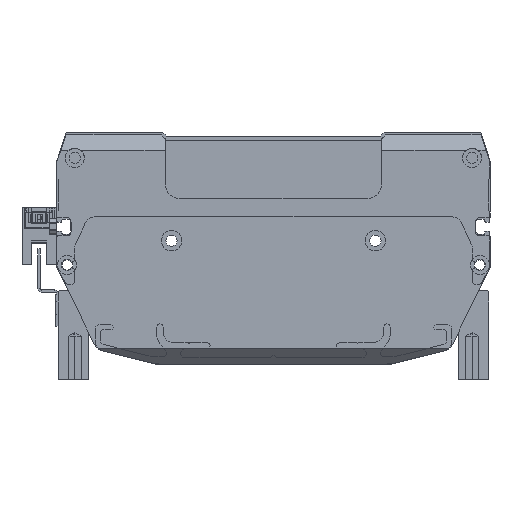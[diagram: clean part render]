
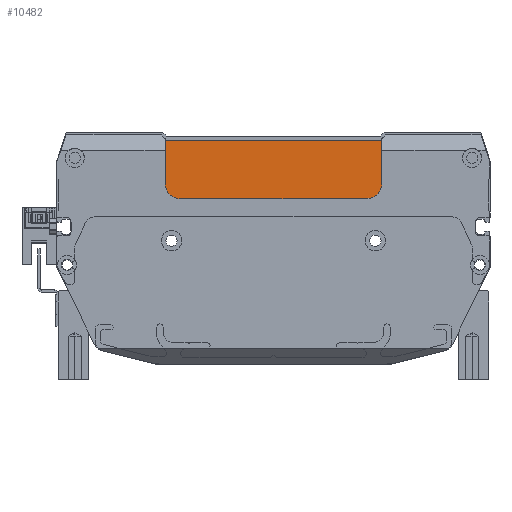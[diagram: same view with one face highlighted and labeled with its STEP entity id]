
A CAD part, front view. The second image highlights one B-rep face of the part: STEP entity #10482.
In plain terms, the highlighted planar face has unit normal (0, -1, 0) as drawn and (0, 0, 1) by its records, which use the part's own axes.
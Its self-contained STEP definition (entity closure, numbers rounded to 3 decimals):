
#62 = EDGE_CURVE ( 'NONE', #23372, #7987, #9390, .T. ) ;
#257 = ORIENTED_EDGE ( 'NONE', *, *, #62, .T. ) ;
#472 = DIRECTION ( 'NONE',  ( 0., 0., 1. ) ) ;
#548 = EDGE_CURVE ( 'NONE', #18753, #7546, #13366, .T. ) ;
#731 = DIRECTION ( 'NONE',  ( 0.707, 0.707, 0. ) ) ;
#836 = DIRECTION ( 'NONE',  ( 1., 0., 0. ) ) ;
#896 = CARTESIAN_POINT ( 'NONE',  ( -52.315, -29.29, 1.5 ) ) ;
#970 = AXIS2_PLACEMENT_3D ( 'NONE', #6092, #8691, #836 ) ;
#1113 = ORIENTED_EDGE ( 'NONE', *, *, #7697, .T. ) ;
#1703 = DIRECTION ( 'NONE',  ( -0.707, 0.707, 0. ) ) ;
#1817 = VERTEX_POINT ( 'NONE', #2135 ) ;
#1950 = CARTESIAN_POINT ( 'NONE',  ( 34.185, -30.79, 1.5 ) ) ;
#2012 = DIRECTION ( 'NONE',  ( 0., -1., 0. ) ) ;
#2135 = CARTESIAN_POINT ( 'NONE',  ( 26.685, -5.79, 1.5 ) ) ;
#2183 = PLANE ( 'NONE',  #970 ) ;
#3336 = VECTOR ( 'NONE', #2012, 1000. ) ;
#3426 = ORIENTED_EDGE ( 'NONE', *, *, #8407, .T. ) ;
#3613 = EDGE_CURVE ( 'NONE', #7987, #18753, #22791, .T. ) ;
#3779 = CARTESIAN_POINT ( 'NONE',  ( 32.685, -5.79, 1.5 ) ) ;
#4067 = CARTESIAN_POINT ( 'NONE',  ( -51.815, -28.79, 1.5 ) ) ;
#4349 = CARTESIAN_POINT ( 'NONE',  ( 32.685, -29.29, 1.5 ) ) ;
#4633 = EDGE_CURVE ( 'NONE', #7141, #7546, #7978, .T. ) ;
#5172 = ORIENTED_EDGE ( 'NONE', *, *, #10704, .T. ) ;
#6092 = CARTESIAN_POINT ( 'NONE',  ( 0., 0., 1.5 ) ) ;
#7116 = ORIENTED_EDGE ( 'NONE', *, *, #3613, .T. ) ;
#7141 = VERTEX_POINT ( 'NONE', #4349 ) ;
#7233 = CARTESIAN_POINT ( 'NONE',  ( -46.315, -5.79, 1.5 ) ) ;
#7546 = VERTEX_POINT ( 'NONE', #24431 ) ;
#7697 = EDGE_CURVE ( 'NONE', #1817, #18285, #19808, .T. ) ;
#7978 = LINE ( 'NONE', #1950, #17357 ) ;
#7987 = VERTEX_POINT ( 'NONE', #896 ) ;
#8407 = EDGE_CURVE ( 'NONE', #24520, #1817, #16500, .T. ) ;
#8691 = DIRECTION ( 'NONE',  ( 0., 0., 1. ) ) ;
#8920 = CARTESIAN_POINT ( 'NONE',  ( 32.685, -11.79, 1.5 ) ) ;
#9390 = LINE ( 'NONE', #21460, #3336 ) ;
#9550 = AXIS2_PLACEMENT_3D ( 'NONE', #14100, #472, #14015 ) ;
#10053 = CIRCLE ( 'NONE', #18761, 6. ) ;
#10262 = ORIENTED_EDGE ( 'NONE', *, *, #548, .T. ) ;
#10482 = ADVANCED_FACE ( 'NONE', ( #14884 ), #2183, .T. ) ;
#10524 = CARTESIAN_POINT ( 'NONE',  ( -53.815, -30.79, 1.5 ) ) ;
#10704 = EDGE_CURVE ( 'NONE', #18285, #23372, #10053, .T. ) ;
#11160 = DIRECTION ( 'NONE',  ( 0., 0., 1. ) ) ;
#11880 = VECTOR ( 'NONE', #731, 1000. ) ;
#13112 = CARTESIAN_POINT ( 'NONE',  ( -52.315, -5.79, 1.5 ) ) ;
#13366 = LINE ( 'NONE', #18551, #17864 ) ;
#14015 = DIRECTION ( 'NONE',  ( 1., 0., 0. ) ) ;
#14100 = CARTESIAN_POINT ( 'NONE',  ( 26.685, -11.79, 1.5 ) ) ;
#14884 = FACE_OUTER_BOUND ( 'NONE', #19124, .T. ) ;
#15408 = CARTESIAN_POINT ( 'NONE',  ( -52.315, -11.79, 1.5 ) ) ;
#16500 = CIRCLE ( 'NONE', #9550, 6. ) ;
#17271 = EDGE_CURVE ( 'NONE', #7141, #24520, #23236, .T. ) ;
#17357 = VECTOR ( 'NONE', #1703, 1000. ) ;
#17702 = VECTOR ( 'NONE', #24830, 1000. ) ;
#17864 = VECTOR ( 'NONE', #18948, 1000. ) ;
#18285 = VERTEX_POINT ( 'NONE', #7233 ) ;
#18551 = CARTESIAN_POINT ( 'NONE',  ( -51.815, -28.79, 1.5 ) ) ;
#18678 = CARTESIAN_POINT ( 'NONE',  ( -46.315, -11.79, 1.5 ) ) ;
#18753 = VERTEX_POINT ( 'NONE', #4067 ) ;
#18761 = AXIS2_PLACEMENT_3D ( 'NONE', #18678, #11160, #22686 ) ;
#18835 = ORIENTED_EDGE ( 'NONE', *, *, #4633, .F. ) ;
#18948 = DIRECTION ( 'NONE',  ( 1., 0., 0. ) ) ;
#19124 = EDGE_LOOP ( 'NONE', ( #22030, #3426, #1113, #5172, #257, #7116, #10262, #18835 ) ) ;
#19808 = LINE ( 'NONE', #13112, #17702 ) ;
#21036 = DIRECTION ( 'NONE',  ( 0., 1., 0. ) ) ;
#21460 = CARTESIAN_POINT ( 'NONE',  ( -52.315, -5.79, 1.5 ) ) ;
#22030 = ORIENTED_EDGE ( 'NONE', *, *, #17271, .T. ) ;
#22686 = DIRECTION ( 'NONE',  ( 1., 0., 0. ) ) ;
#22791 = LINE ( 'NONE', #10524, #11880 ) ;
#23236 = LINE ( 'NONE', #3779, #24150 ) ;
#23372 = VERTEX_POINT ( 'NONE', #15408 ) ;
#24150 = VECTOR ( 'NONE', #21036, 1000. ) ;
#24431 = CARTESIAN_POINT ( 'NONE',  ( 32.185, -28.79, 1.5 ) ) ;
#24520 = VERTEX_POINT ( 'NONE', #8920 ) ;
#24830 = DIRECTION ( 'NONE',  ( -1., 0., 0. ) ) ;
